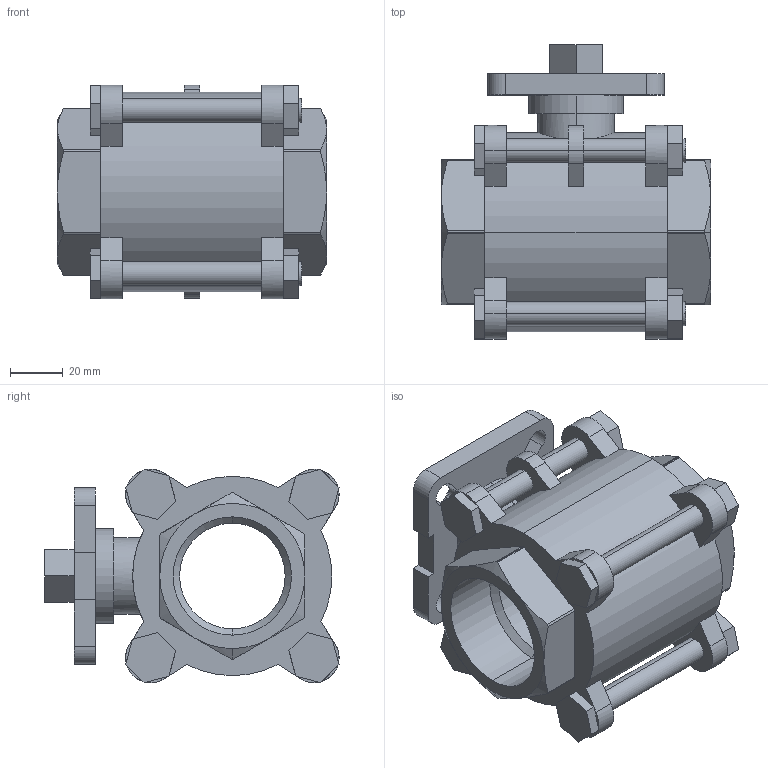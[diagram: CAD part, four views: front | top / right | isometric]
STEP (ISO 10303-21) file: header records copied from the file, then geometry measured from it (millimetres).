
FILE_DESCRIPTION (( 'STEP AP203' ), '1' );
FILE_NAME ('C3.622I0400FVPB0.STEP', '2018-10-12T14:43:08', ( '' ), ( '' ), 'SwSTEP 2.0', 'SolidWorks 2014', '' );
FILE_SCHEMA (( 'CONFIG_CONTROL_DESIGN' ));
Length unit declared in the file: millimetre
Products named in the file (1): C3.622I0400FVPB0
Bounding box: 102 x 111.43 x 80.87 mm (x, y, z)
Volume: 341770.3 mm3; surface area: 68708.9 mm2
Topology: 1 solids, 1 shells, 287 faces, 734 edges, 461 vertices
Faces by surface type: plane 192, cylinder 77, cone 18
Entity records: 8950 total; most frequent: CARTESIAN_POINT 1757, DIRECTION 1503, ORIENTED_EDGE 1468, EDGE_CURVE 734, AXIS2_PLACEMENT_3D 507, VECTOR 489, LINE 489, VERTEX_POINT 461
